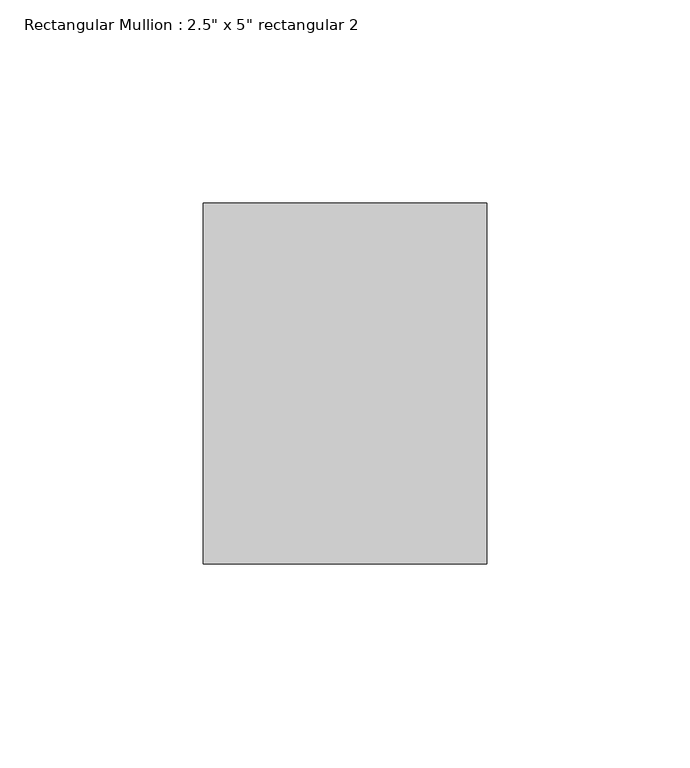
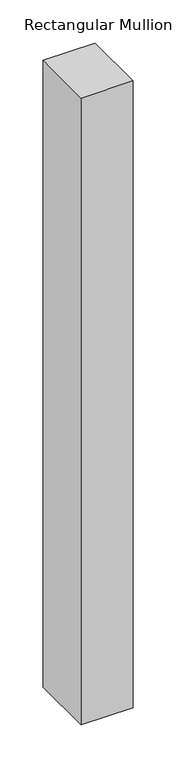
"""IFC4 building model written with IfcOpenShell, lengths in millimetres: member geometry."""

from ifc_helpers import new_model, si_unit, frame, origin, place, context, project, spatial, polyline, outline, extrude, source, transform, mapped, element, save


def member_e39cbc11(model_context):
    return source(origin(), model_context, "Body", "SweptSolid", [
        extrude(outline(polyline([(0.0, 44.45), (0.0, -44.45), (-69.85, -44.45), (-69.85, 44.45), (0.0, 44.45)])), frame((0.0, 0.0, -889.4501243), z_axis=(0.0, 0.0, 1.0), x_axis=(1.0, 0.0, 0.0)), (0.0, 0.0, 1.0), 889.4501243),
    ])


if __name__ == "__main__":
    model = new_model("IFC4")
    model_context = context("Model", 3, world=origin())
    ifc_project = project(units=[si_unit("LENGTHUNIT", "METRE", prefix="MILLI")], contexts=[model_context])
    site = spatial("IfcSite", under=ifc_project)
    building = spatial("IfcBuilding", under=site)
    placement = place(None, origin())
    member_shape = member_e39cbc11(model_context)
    element("IfcMember", 1, ObjectType="Rectangular Mullion : 2.5\" x 5\" rectangular 2", at=placement, inside=building, context=model_context, shape_type="MappedRepresentation", body=[
        mapped(member_shape, transform((0.0, 0.0, 0.0), x_axis=(1.0, 0.0, 0.0), y_axis=(0.0, 1.0, 0.0), z_axis=(0.0, 0.0, 1.0))),
    ])
    save(model, "model.ifc")
